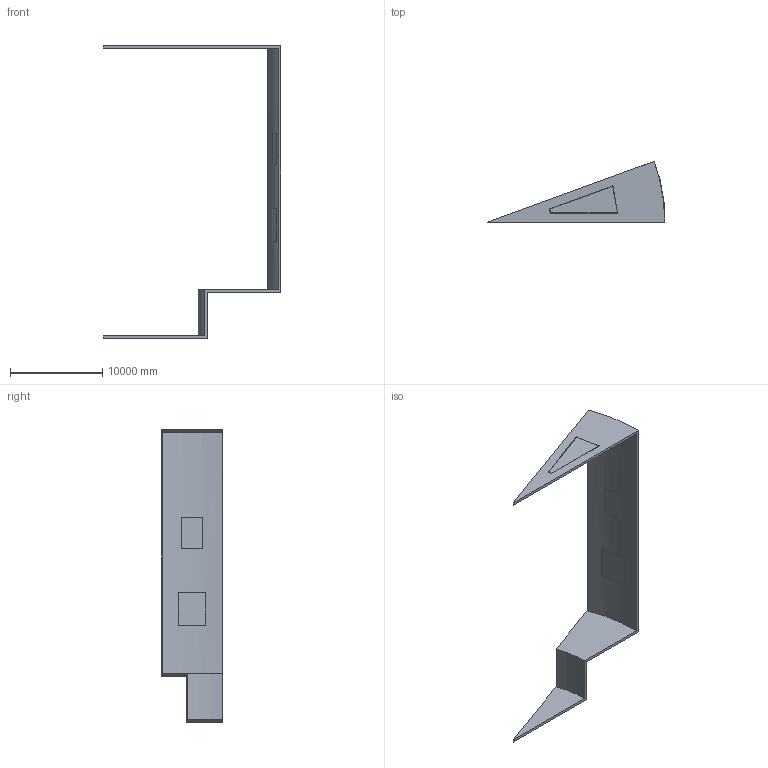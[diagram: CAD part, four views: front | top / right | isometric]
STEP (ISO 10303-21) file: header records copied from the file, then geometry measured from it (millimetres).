
FILE_DESCRIPTION(('FreeCAD Model'),'2;1');
FILE_NAME('Open CASCADE Shape Model','2026-10-11T08:18:57',('Bluemira'), ('Bluemira'),'Open CASCADE STEP processor 7.8','FreeCAD','Unknown');
FILE_SCHEMA(('AP242_MANAGED_MODEL_BASED_3D_ENGINEERING_MIM_LF. {1 0 10303 442 1 1 4 }'));
Length unit declared in the file: metre
Products named in the file (5): Unnamed; Cryostat_VV_1_1; CryostatPortPlug_0_1; CryostatPortPlug_1_1; CryostatPortPlug_2_1
Assembly tree (4 placements, depth 2):
  Unnamed
    Cryostat_VV_1_1
    CryostatPortPlug_0_1
    CryostatPortPlug_1_1
    CryostatPortPlug_2_1
Bounding box: 19294.17 x 6598.27 x 31811.29 mm (x, y, z)
Volume: 98589508290.8 mm3; surface area: 733767715 mm2
Topology: 4 solids, 4 shells, 72 faces, 178 edges, 120 vertices
Faces by surface type: plane 68, cylinder 4
Entity records: 4518 total; most frequent: CARTESIAN_POINT 783, DIRECTION 686, LINE 478, VECTOR 478, ORIENTED_EDGE 356, PCURVE 356, DEFINITIONAL_REPRESENTATION 356, EDGE_CURVE 178
